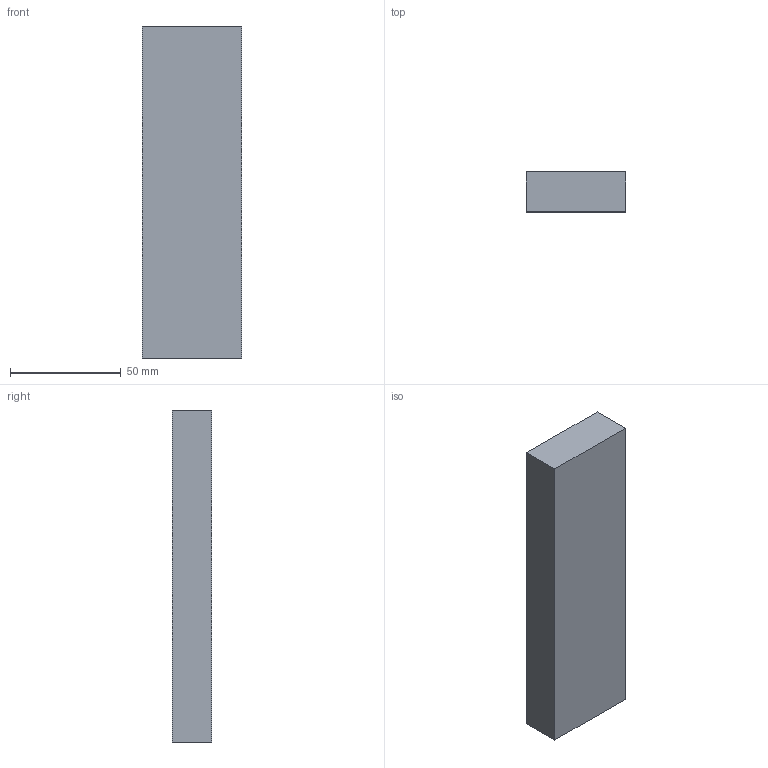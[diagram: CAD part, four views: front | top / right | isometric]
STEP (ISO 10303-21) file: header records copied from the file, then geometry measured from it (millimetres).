
FILE_DESCRIPTION(('Open CASCADE Model'),'2;1');
FILE_NAME('Open CASCADE Shape Model','2026-10-19T10:09:20',('Author'),( 'Open CASCADE'),'Open CASCADE STEP processor 8.0','Open CASCADE 8.0' ,'Unknown');
FILE_SCHEMA(('AUTOMOTIVE_DESIGN { 1 0 10303 214 1 1 1 1 }'));
Length unit declared in the file: millimetre
Products named in the file (1): ASA_BIGBAG_REF 71
Bounding box: 45 x 18 x 150 mm (x, y, z)
Volume: 121500 mm3; surface area: 20520 mm2
Topology: 1 solids, 1 shells, 6 faces, 12 edges, 8 vertices
Faces by surface type: plane 6
Entity records: 322 total; most frequent: CARTESIAN_POINT 51, DIRECTION 50, LINE 36, VECTOR 36, ORIENTED_EDGE 24, PCURVE 24, DEFINITIONAL_REPRESENTATION 24, EDGE_CURVE 12
